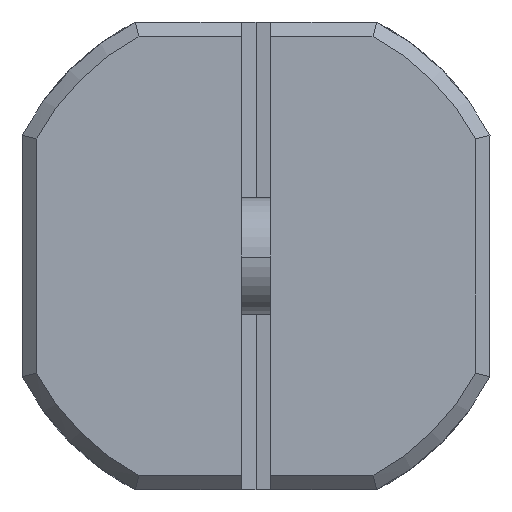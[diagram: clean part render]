
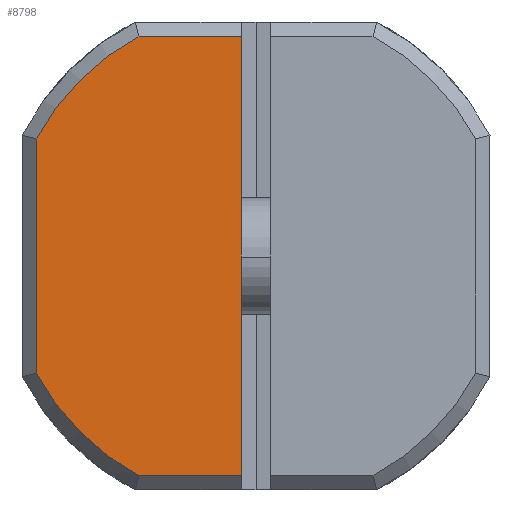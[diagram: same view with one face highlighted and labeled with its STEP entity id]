
A CAD part, left-side view. The second image highlights one B-rep face of the part: STEP entity #8798.
In plain terms, the highlighted planar face has unit normal (-1, 0, 0).
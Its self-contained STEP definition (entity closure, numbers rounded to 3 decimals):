
#19 = AXIS2_PLACEMENT_3D ( 'NONE', #71, #6977, #1060 ) ;
#71 = CARTESIAN_POINT ( 'NONE',  ( -55.72, 6.776, -49.281 ) ) ;
#344 = ORIENTED_EDGE ( 'NONE', *, *, #954, .T. ) ;
#899 = VERTEX_POINT ( 'NONE', #2579 ) ;
#954 = EDGE_CURVE ( 'NONE', #3987, #4737, #9054, .T. ) ;
#1060 = DIRECTION ( 'NONE',  ( 0., 1., 0. ) ) ;
#1065 = AXIS2_PLACEMENT_3D ( 'NONE', #7069, #1366, #7120 ) ;
#1136 = CARTESIAN_POINT ( 'NONE',  ( -55.72, 14.276, -49.281 ) ) ;
#1185 = CARTESIAN_POINT ( 'NONE',  ( -55.72, 7.276, -41.781 ) ) ;
#1350 = VECTOR ( 'NONE', #5347, 1000. ) ;
#1366 = DIRECTION ( 'NONE',  ( -1., 0., 0. ) ) ;
#1537 = VECTOR ( 'NONE', #6132, 1000. ) ;
#1815 = FACE_OUTER_BOUND ( 'NONE', #6470, .T. ) ;
#1905 = VECTOR ( 'NONE', #9324, 1000. ) ;
#2057 = CARTESIAN_POINT ( 'NONE',  ( -55.72, 10.776, -41.781 ) ) ;
#2209 = VERTEX_POINT ( 'NONE', #5016 ) ;
#2299 = EDGE_CURVE ( 'NONE', #899, #4737, #2986, .T. ) ;
#2579 = CARTESIAN_POINT ( 'NONE',  ( -55.72, 7.276, -56.781 ) ) ;
#2986 = LINE ( 'NONE', #7483, #10234 ) ;
#3476 = CIRCLE ( 'NONE', #19, 8.5 ) ;
#3522 = CARTESIAN_POINT ( 'NONE',  ( -55.72, 7.276, -41.781 ) ) ;
#3673 = ORIENTED_EDGE ( 'NONE', *, *, #2299, .F. ) ;
#3823 = ORIENTED_EDGE ( 'NONE', *, *, #4796, .F. ) ;
#3987 = VERTEX_POINT ( 'NONE', #11188 ) ;
#4533 = DIRECTION ( 'NONE',  ( 0., 0., -1. ) ) ;
#4737 = VERTEX_POINT ( 'NONE', #10973 ) ;
#4796 = EDGE_CURVE ( 'NONE', #3987, #2209, #6793, .T. ) ;
#5016 = CARTESIAN_POINT ( 'NONE',  ( -55.72, 14.276, -45.281 ) ) ;
#5071 = ORIENTED_EDGE ( 'NONE', *, *, #8719, .F. ) ;
#5347 = DIRECTION ( 'NONE',  ( 0., -1., 0. ) ) ;
#6132 = DIRECTION ( 'NONE',  ( 0., 0., 1. ) ) ;
#6470 = EDGE_LOOP ( 'NONE', ( #8636, #5071, #7393, #3823, #344, #3673 ) ) ;
#6793 = LINE ( 'NONE', #1136, #1537 ) ;
#6977 = DIRECTION ( 'NONE',  ( 1., 0., 0. ) ) ;
#7069 = CARTESIAN_POINT ( 'NONE',  ( -55.72, 6.776, -49.281 ) ) ;
#7120 = DIRECTION ( 'NONE',  ( 0., 1., 0. ) ) ;
#7122 = AXIS2_PLACEMENT_3D ( 'NONE', #3522, #10430, #4533 ) ;
#7167 = EDGE_CURVE ( 'NONE', #899, #8173, #9482, .T. ) ;
#7393 = ORIENTED_EDGE ( 'NONE', *, *, #9061, .F. ) ;
#7483 = CARTESIAN_POINT ( 'NONE',  ( -55.72, 9.099, -56.781 ) ) ;
#8173 = VERTEX_POINT ( 'NONE', #1185 ) ;
#8636 = ORIENTED_EDGE ( 'NONE', *, *, #7167, .T. ) ;
#8719 = EDGE_CURVE ( 'NONE', #12333, #8173, #9238, .T. ) ;
#8798 = ADVANCED_FACE ( 'NONE', ( #1815 ), #12395, .F. ) ;
#9054 = CIRCLE ( 'NONE', #1065, 8.5 ) ;
#9061 = EDGE_CURVE ( 'NONE', #2209, #12333, #3476, .T. ) ;
#9238 = LINE ( 'NONE', #9304, #1350 ) ;
#9304 = CARTESIAN_POINT ( 'NONE',  ( -55.72, 10.776, -41.781 ) ) ;
#9324 = DIRECTION ( 'NONE',  ( 0., 0., 1. ) ) ;
#9482 = LINE ( 'NONE', #11286, #1905 ) ;
#10234 = VECTOR ( 'NONE', #11025, 1000. ) ;
#10430 = DIRECTION ( 'NONE',  ( 1., 0., 0. ) ) ;
#10973 = CARTESIAN_POINT ( 'NONE',  ( -55.72, 10.776, -56.781 ) ) ;
#11025 = DIRECTION ( 'NONE',  ( 0., 1., 0. ) ) ;
#11188 = CARTESIAN_POINT ( 'NONE',  ( -55.72, 14.276, -53.281 ) ) ;
#11286 = CARTESIAN_POINT ( 'NONE',  ( -55.72, 7.276, -49.281 ) ) ;
#12333 = VERTEX_POINT ( 'NONE', #2057 ) ;
#12395 = PLANE ( 'NONE',  #7122 ) ;
